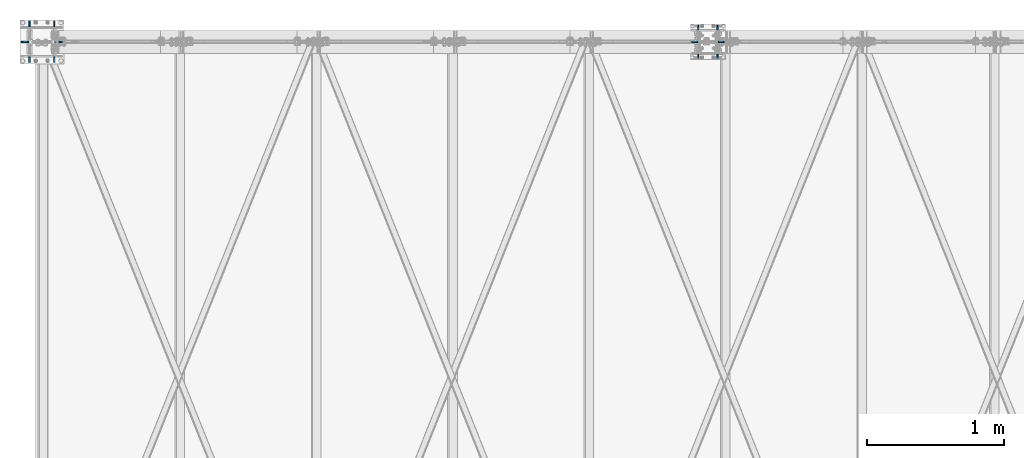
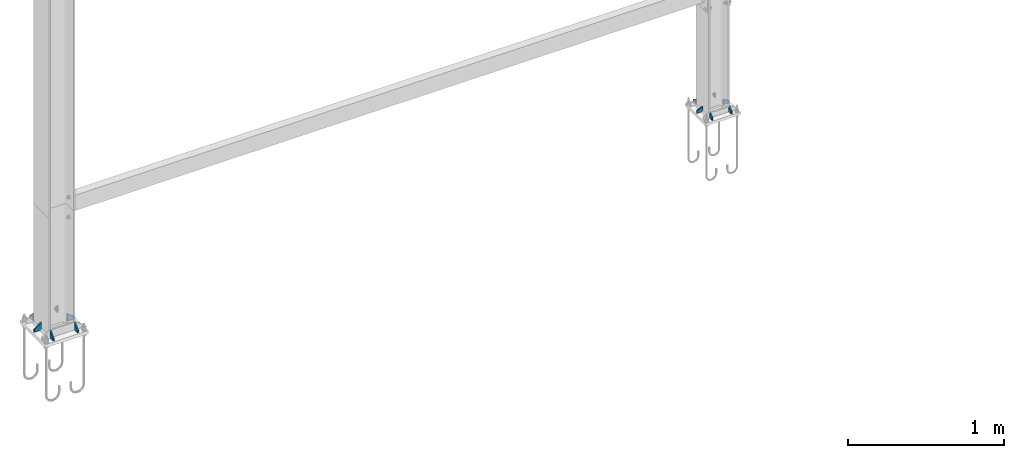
# One storey, part 15 of 251: 12 plates.
"""IFC4 building model written with IfcOpenShell, lengths in metres."""

from ifc_helpers import new_model, si_unit, frame, origin_with_axes, place, context, project, spatial, polyline, outline, extrude, type_object, element, save


model = new_model("IFC4")

# Units and contexts
model_context = context("Model", 3, precision=1e-05, world=origin_with_axes())
ifc_project = project(units=[si_unit("LENGTHUNIT", "METRE"), si_unit("AREAUNIT", "SQUARE_METRE"), si_unit("VOLUMEUNIT", "CUBIC_METRE"), si_unit("MASSUNIT", "GRAM", prefix="KILO"), si_unit("TIMEUNIT", "SECOND"), si_unit("PLANEANGLEUNIT", "RADIAN"), si_unit("SOLIDANGLEUNIT", "STERADIAN"), si_unit("THERMODYNAMICTEMPERATUREUNIT", "DEGREE_CELSIUS")], contexts=[model_context])

# Site, building, storey
placement_1 = place(None, origin_with_axes())
site = spatial("IfcSite", under=ifc_project, at=placement_1, Name="Italia", CompositionType="ELEMENT")
building = spatial("IfcBuilding", under=site, at=placement_1, Name="Deposito", CompositionType="ELEMENT")
storey = spatial("IfcBuildingStorey", under=building, at=placement_1, Name="Storey 0", CompositionType="ELEMENT", Elevation=0.0)

# Plates
plate_type_1 = type_object("IfcPlateType", Name="Collegamenti 0014_-001 0016_-054 0018_-056 0032_-002 0033_-058 0047_-003 0048_-060 0062_-004 0063_-005 0079_-008", PredefinedType="SHEET")
placement_2 = place(placement_1, origin_with_axes())
plate_1_placement = place(placement_2, origin_with_axes())
element("IfcPlate", 1, at=plate_1_placement, inside=storey, type_object=plate_type_1, Name="Collegamenti 0014_-001 0016_-054 0018_-056 0032_-002 0033_-058 0047_-003 0048_-060 0062_-004 0063_-005 0079_-008", context=model_context, shape_type="SweptSolid", body=[
    extrude(outline(polyline([(0.0, 0.0), (0.0, -0.02), (-0.0550003, -0.02), (-0.0550003, 0.04), (0.0, 0.0)])), frame((5.9, 19.995, 0.095), z_axis=(0.0, 1.0, 0.0), x_axis=(-1.0, 0.0, 0.0)), (0.0, 0.0, 1.0), 0.00999832),
])
plate_type_2 = type_object("IfcPlateType", Name="Collegamenti 0014_-001 0016_-054 0018_-056 0032_-002 0033_-058 0047_-003 0048_-060 0062_-004 0063_-005 0079_-008", PredefinedType="SHEET")
plate_2_placement = place(placement_2, origin_with_axes())
element("IfcPlate", 2, at=plate_2_placement, inside=storey, type_object=plate_type_2, Name="Collegamenti 0014_-001 0016_-054 0018_-056 0032_-002 0033_-058 0047_-003 0048_-060 0062_-004 0063_-005 0079_-008", context=model_context, shape_type="SweptSolid", body=[
    extrude(outline(polyline([(0.0, 0.0), (0.0, 0.02), (0.0550003, 0.06), (0.0550003, 0.0), (0.0, 0.0)])), frame((6.2, 19.995, 0.075), z_axis=(0.0, 1.0, 0.0), x_axis=(-1.0, 0.0, 0.0)), (0.0, 0.0, 1.0), 0.00999832),
])
plate_type_3 = type_object("IfcPlateType", Name="Collegamenti 0014_-001 0016_-054 0018_-056 0032_-002 0033_-058 0047_-003 0048_-060 0062_-004 0063_-005 0079_-008", PredefinedType="SHEET")
plate_3_placement = place(placement_2, origin_with_axes())
element("IfcPlate", 3, at=plate_3_placement, inside=storey, type_object=plate_type_3, Name="Collegamenti 0014_-001 0016_-054 0018_-056 0032_-002 0033_-058 0047_-003 0048_-060 0062_-004 0063_-005 0079_-008", context=model_context, shape_type="SweptSolid", body=[
    extrude(outline(polyline([(0.0, 0.0), (0.0, -0.02), (-0.039999, -0.02), (-0.039999, 0.04), (0.0, 0.0)])), frame((5.955, 20.15, 0.095), z_axis=(1.0, 0.0, 0.0), x_axis=(0.0, 1.0, 0.0)), (0.0, 0.0, 1.0), 0.0100002),
])
plate_type_4 = type_object("IfcPlateType", Name="Collegamenti 0014_-001 0016_-054 0018_-056 0032_-002 0033_-058 0047_-003 0048_-060 0062_-004 0063_-005 0079_-008", PredefinedType="SHEET")
plate_4_placement = place(placement_2, origin_with_axes())
element("IfcPlate", 4, at=plate_4_placement, inside=storey, type_object=plate_type_4, Name="Collegamenti 0014_-001 0016_-054 0018_-056 0032_-002 0033_-058 0047_-003 0048_-060 0062_-004 0063_-005 0079_-008", context=model_context, shape_type="SweptSolid", body=[
    extrude(outline(polyline([(0.0, 0.0), (0.0, 0.02), (0.039999, 0.06), (0.039999, 0.0), (0.0, 0.0)])), frame((5.955, 19.85, 0.075), z_axis=(1.0, 0.0, 0.0), x_axis=(0.0, 1.0, 0.0)), (0.0, 0.0, 1.0), 0.0100002),
])
plate_type_5 = type_object("IfcPlateType", Name="Collegamenti 0014_-001 0016_-054 0018_-056 0032_-002 0033_-058 0047_-003 0048_-060 0062_-004 0063_-005 0079_-008", PredefinedType="SHEET")
plate_5_placement = place(placement_2, origin_with_axes())
element("IfcPlate", 5, at=plate_5_placement, inside=storey, type_object=plate_type_5, Name="Collegamenti 0014_-001 0016_-054 0018_-056 0032_-002 0033_-058 0047_-003 0048_-060 0062_-004 0063_-005 0079_-008", context=model_context, shape_type="SweptSolid", body=[
    extrude(outline(polyline([(0.0, 0.0), (0.0, 0.02), (0.039999, 0.06), (0.039999, 0.0), (0.0, 0.0)])), frame((6.145, 20.15, 0.075), z_axis=(-1.0, 0.0, 0.0), x_axis=(0.0, -1.0, 0.0)), (0.0, 0.0, 1.0), 0.0100002),
])
plate_type_6 = type_object("IfcPlateType", Name="Collegamenti 0014_-001 0016_-054 0018_-056 0032_-002 0033_-058 0047_-003 0048_-060 0062_-004 0063_-005 0079_-008", PredefinedType="SHEET")
plate_6_placement = place(placement_2, origin_with_axes())
element("IfcPlate", 6, at=plate_6_placement, inside=storey, type_object=plate_type_6, Name="Collegamenti 0014_-001 0016_-054 0018_-056 0032_-002 0033_-058 0047_-003 0048_-060 0062_-004 0063_-005 0079_-008", context=model_context, shape_type="SweptSolid", body=[
    extrude(outline(polyline([(0.0, 0.0), (0.0, -0.02), (-0.039999, -0.02), (-0.039999, 0.04), (0.0, 0.0)])), frame((6.145, 19.85, 0.095), z_axis=(-1.0, 0.0, 0.0), x_axis=(0.0, -1.0, 0.0)), (0.0, 0.0, 1.0), 0.0100002),
])
plate_type_7 = type_object("IfcPlateType", Name="Collegamenti 0068_-006 0074_-007", PredefinedType="SHEET")
plate_7_placement = place(placement_2, origin_with_axes())
element("IfcPlate", 7, at=plate_7_placement, inside=storey, type_object=plate_type_7, Name="Collegamenti 0068_-006 0074_-007", context=model_context, shape_type="SweptSolid", body=[
    extrude(outline(polyline([(0.0, 0.0), (0.0, -0.02), (-0.0430002, -0.02), (-0.0430002, 0.02), (0.0, 0.0)])), frame((10.796, 19.995, 0.09), z_axis=(0.0, 1.0, 0.0), x_axis=(-1.0, 0.0, 0.0)), (0.0, 0.0, 1.0), 0.00999832),
])
plate_type_8 = type_object("IfcPlateType", Name="Collegamenti 0068_-006 0074_-007", PredefinedType="SHEET")
plate_8_placement = place(placement_2, origin_with_axes())
element("IfcPlate", 8, at=plate_8_placement, inside=storey, type_object=plate_type_8, Name="Collegamenti 0068_-006 0074_-007", context=model_context, shape_type="SweptSolid", body=[
    extrude(outline(polyline([(0.0, 0.0), (0.0, 0.02), (0.0430002, 0.04), (0.0430002, 0.0), (0.0, 0.0)])), frame((11.034, 19.995, 0.07), z_axis=(0.0, 1.0, 0.0), x_axis=(-1.0, 0.0, 0.0)), (0.0, 0.0, 1.0), 0.00999832),
])
plate_type_9 = type_object("IfcPlateType", Name="Collegamenti 0068_-006 0074_-007", PredefinedType="SHEET")
plate_9_placement = place(placement_2, origin_with_axes())
element("IfcPlate", 9, at=plate_9_placement, inside=storey, type_object=plate_type_9, Name="Collegamenti 0068_-006 0074_-007", context=model_context, shape_type="SweptSolid", body=[
    extrude(outline(polyline([(0.0, 0.0), (0.0, -0.02), (-0.0300007, -0.02), (-0.0300007, 0.02), (0.0, 0.0)])), frame((10.839, 20.12, 0.09), z_axis=(1.0, 0.0, 0.0), x_axis=(0.0, 1.0, 0.0)), (0.0, 0.0, 1.0), 0.0100002),
])
plate_type_10 = type_object("IfcPlateType", Name="Collegamenti 0068_-006 0074_-007", PredefinedType="SHEET")
plate_10_placement = place(placement_2, origin_with_axes())
element("IfcPlate", 10, at=plate_10_placement, inside=storey, type_object=plate_type_10, Name="Collegamenti 0068_-006 0074_-007", context=model_context, shape_type="SweptSolid", body=[
    extrude(outline(polyline([(0.0, 0.0), (0.0, 0.02), (0.0300007, 0.04), (0.0300007, 0.0), (0.0, 0.0)])), frame((10.839, 19.88, 0.07), z_axis=(1.0, 0.0, 0.0), x_axis=(0.0, 1.0, 0.0)), (0.0, 0.0, 1.0), 0.0100002),
])
plate_type_11 = type_object("IfcPlateType", Name="Collegamenti 0068_-006 0074_-007", PredefinedType="SHEET")
plate_11_placement = place(placement_2, origin_with_axes())
element("IfcPlate", 11, at=plate_11_placement, inside=storey, type_object=plate_type_11, Name="Collegamenti 0068_-006 0074_-007", context=model_context, shape_type="SweptSolid", body=[
    extrude(outline(polyline([(0.0, 0.0), (0.0, 0.02), (0.0300007, 0.04), (0.0300007, 0.0), (0.0, 0.0)])), frame((10.991, 20.12, 0.07), z_axis=(-1.0, 0.0, 0.0), x_axis=(0.0, -1.0, 0.0)), (0.0, 0.0, 1.0), 0.0100002),
])
plate_type_12 = type_object("IfcPlateType", Name="Collegamenti 0068_-006 0074_-007", PredefinedType="SHEET")
plate_12_placement = place(placement_2, origin_with_axes())
element("IfcPlate", 12, at=plate_12_placement, inside=storey, type_object=plate_type_12, Name="Collegamenti 0068_-006 0074_-007", context=model_context, shape_type="SweptSolid", body=[
    extrude(outline(polyline([(0.0, 0.0), (0.0, -0.02), (-0.0300007, -0.02), (-0.0300007, 0.02), (0.0, 0.0)])), frame((10.991, 19.88, 0.09), z_axis=(-1.0, 0.0, 0.0), x_axis=(0.0, -1.0, 0.0)), (0.0, 0.0, 1.0), 0.0100002),
])

save(model, "model.ifc")
